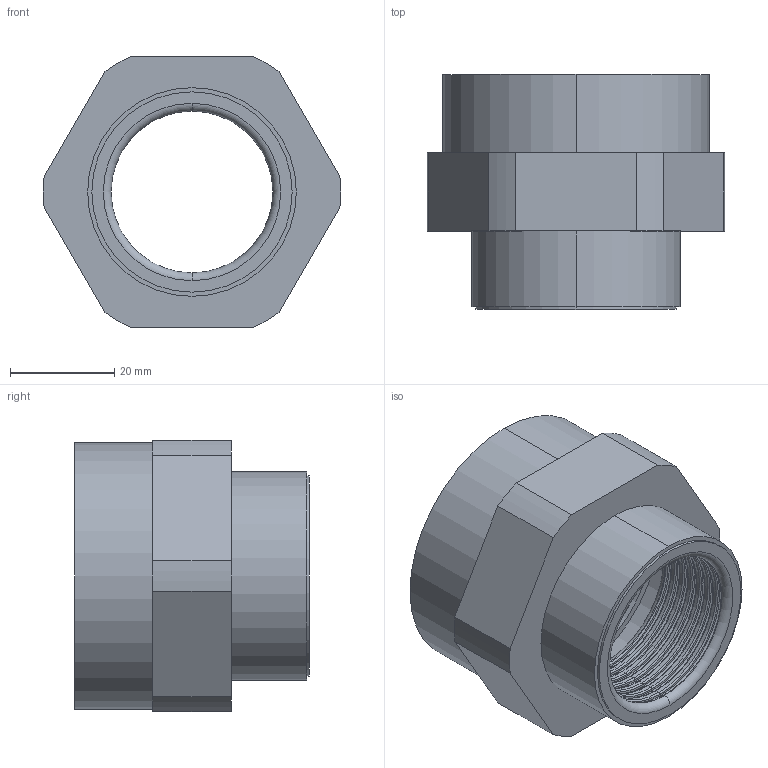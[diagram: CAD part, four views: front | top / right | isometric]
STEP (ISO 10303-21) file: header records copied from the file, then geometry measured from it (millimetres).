
FILE_DESCRIPTION (( 'STEP AP203' ), '1' );
FILE_NAME ('WYTC-37-M40.STEP', '2020-03-12T01:49:54', ( 'c' ), ( 'Microsoft' ), 'SwSTEP 2.0', 'SolidWorks 2016', '' );
FILE_SCHEMA (( 'CONFIG_CONTROL_DESIGN' ));
Length unit declared in the file: millimetre
Products named in the file (1): WYTC-37-M40
Bounding box: 56.97 x 45 x 52 mm (x, y, z)
Volume: 28517.2 mm3; surface area: 17416.2 mm2
Topology: 1 solids, 1 shells, 164 faces, 338 edges, 186 vertices
Faces by surface type: torus 64, cylinder 54, cone 28, plane 18
Entity records: 4397 total; most frequent: DIRECTION 906, CARTESIAN_POINT 689, ORIENTED_EDGE 676, AXIS2_PLACEMENT_3D 403, EDGE_CURVE 338, CIRCLE 238, VERTEX_POINT 186, EDGE_LOOP 176
